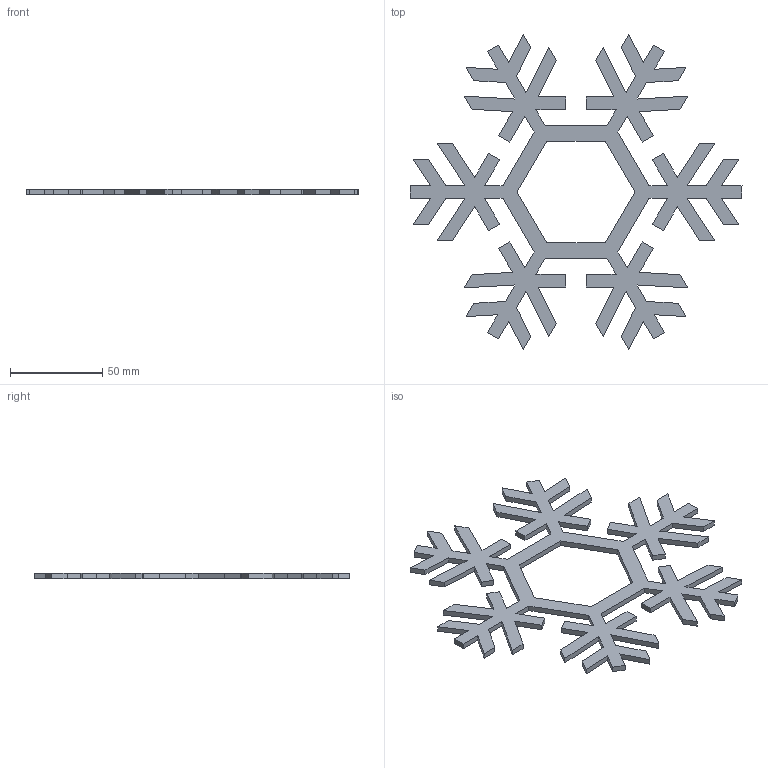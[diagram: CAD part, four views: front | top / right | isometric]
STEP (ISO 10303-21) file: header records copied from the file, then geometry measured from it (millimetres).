
FILE_DESCRIPTION(('STEP AP214'),'1');
FILE_NAME('3.stp','2026-07-01T23:19:32',(' '),(' '),'Spatial InterOp 3D',' ',' ');
FILE_SCHEMA(('AUTOMOTIVE_DESIGN { 1 0 10303 214 1 1 1 1 }'));
Length unit declared in the file: metre
Products named in the file (1): 1782947737
Bounding box: 179.84 x 170.65 x 3 mm (x, y, z)
Volume: 26849.3 mm3; surface area: 25323.7 mm2
Topology: 1 solids, 1 shells, 164 faces, 486 edges, 324 vertices
Faces by surface type: plane 164
Entity records: 9051 total; most frequent: CARTESIAN_POINT 975, ORIENTED_EDGE 972, DIRECTION 816, STYLED_ITEM 633, PRESENTATION_STYLE_ASSIGNMENT 633, COLOUR_RGB 633, EDGE_CURVE 486, LINE 486
